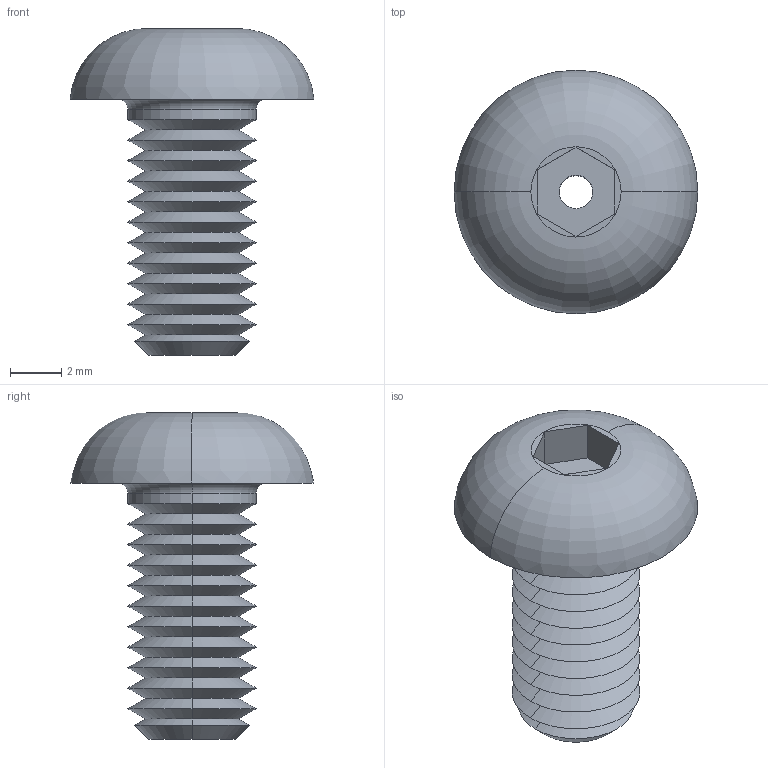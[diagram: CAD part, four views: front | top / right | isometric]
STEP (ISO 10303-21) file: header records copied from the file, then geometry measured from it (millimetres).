
FILE_DESCRIPTION (( 'STEP AP203' ), '1' );
FILE_NAME ('P0094.050-010-A2.step', '2019-07-12T16:53:30', ( '' ), ( '' ), 'SwSTEP 2.0', 'SolidWorks 2017', '' );
FILE_SCHEMA (( 'CONFIG_CONTROL_DESIGN' ));
Length unit declared in the file: millimetre
Products named in the file (1): P0094.050-010-A2
Bounding box: 9.5 x 9.5 x 12.75 mm (x, y, z)
Volume: 268.9 mm3; surface area: 483.8 mm2
Topology: 1 solids, 1 shells, 64 faces, 132 edges, 72 vertices
Faces by surface type: cone 46, plane 10, cylinder 4, torus 4
Entity records: 1737 total; most frequent: DIRECTION 326, CARTESIAN_POINT 269, ORIENTED_EDGE 264, EDGE_CURVE 132, AXIS2_PLACEMENT_3D 129, VERTEX_POINT 72, LINE 68, EDGE_LOOP 68
